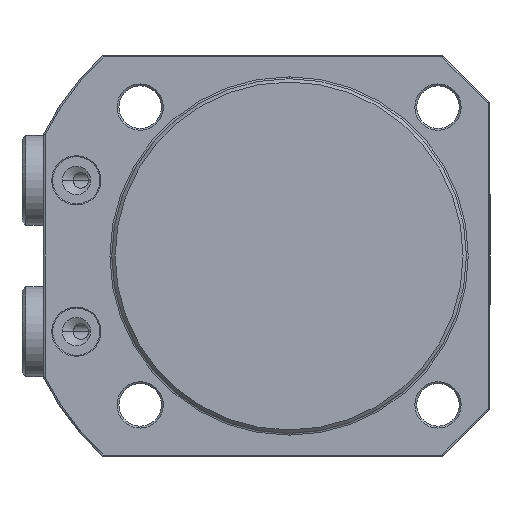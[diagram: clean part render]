
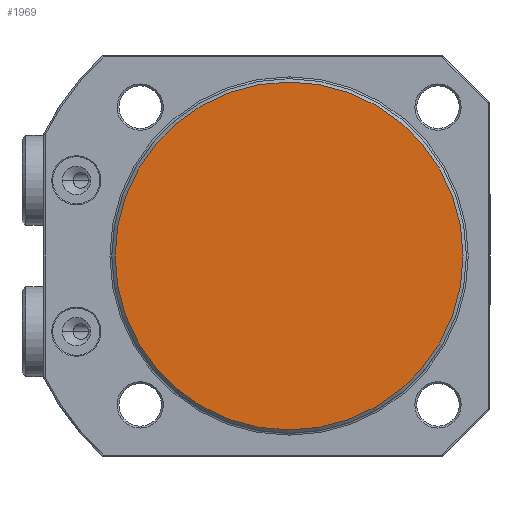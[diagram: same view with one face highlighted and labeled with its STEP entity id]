
A CAD part, front view. The second image highlights one B-rep face of the part: STEP entity #1969.
In plain terms, the highlighted planar face has unit normal (0, -1, 0) as drawn and (-1, 0, 0) by its records, which use the part's own axes.
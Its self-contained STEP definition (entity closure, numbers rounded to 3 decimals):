
#1651=PLANE('',#7238);
#1969=ADVANCED_FACE('',(#2366),#1651,.F.);
#2366=FACE_OUTER_BOUND('',#2706,.T.);
#2706=EDGE_LOOP('',(#4146));
#4146=ORIENTED_EDGE('',*,*,#6043,.T.);
#5427=VERTEX_POINT('',#10101);
#6043=EDGE_CURVE('',#5427,#5427,#6733,.T.);
#6733=CIRCLE('',#7237,36.8);
#7237=AXIS2_PLACEMENT_3D('',#10100,#8348,#8349);
#7238=AXIS2_PLACEMENT_3D('',#10102,#8350,#8351);
#8348=DIRECTION('',(-1.,0.,0.));
#8349=DIRECTION('',(0.,0.,-1.));
#8350=DIRECTION('',(1.,0.,0.));
#8351=DIRECTION('',(0.,0.,1.));
#10100=CARTESIAN_POINT('',(0.,0.,0.));
#10101=CARTESIAN_POINT('',(0.,0.,-36.8));
#10102=CARTESIAN_POINT('',(0.,0.,0.));
